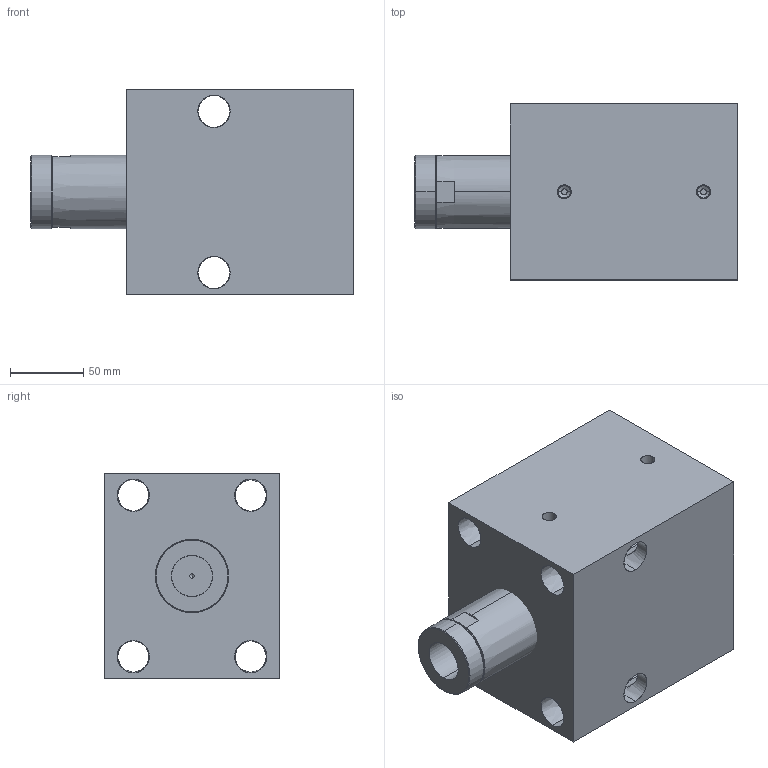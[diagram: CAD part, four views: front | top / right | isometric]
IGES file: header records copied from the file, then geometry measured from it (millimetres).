
Start section: SolidWorks IGES file using analytic representation for surfaces
Global section: file name: C:\Documents and Settings\rajib\Desktop\Rajib\BLOCK CYLINDER HYDRAULIC\0801-0806\IGES 0801-0808\0804.IGS; native system: SolidWorks 2007; preprocessor: SolidWorks 2007; author: rajib; date: 110121.164435; units: millimetre
Bounding box: 220 x 120 x 140 mm (x, y, z)
Surface area: 190745.1 mm2 (no closed solid volume)
Topology: 0 solids, 0 shells, 80 faces, 2016 edges, 2014 vertices
Faces by surface type: revolution 58, bspline 22
